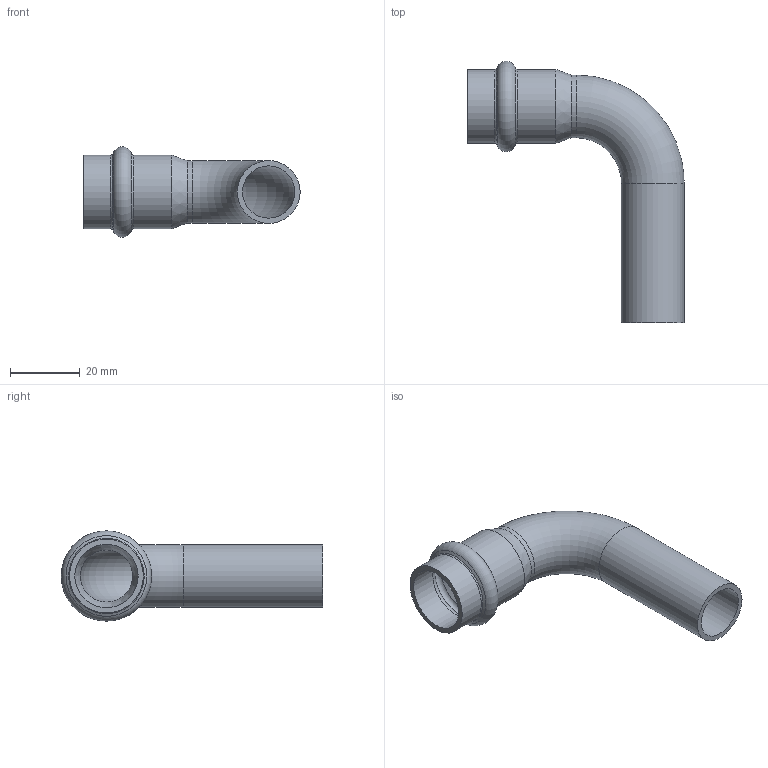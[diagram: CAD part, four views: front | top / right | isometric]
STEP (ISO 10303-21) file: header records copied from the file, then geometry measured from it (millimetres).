
FILE_DESCRIPTION((''),'2;1');
FILE_NAME('G:\Nirosan-Schmiedefeld\Technics\CAD\Bauteile VA\018\69001A18(1).stp','2011-09-05T13:32:58',('herberg'),(''),'Autodesk Inventor 2009','Autodesk Inventor 2009','');
FILE_SCHEMA(('AUTOMOTIVE_DESIGN { 1 0 10303 214 1 1 1 1 }'));
Length unit declared in the file: millimetre
Products named in the file (1): 69001A18(1)
Bounding box: 62 x 74.95 x 25.9 mm (x, y, z)
Volume: 8933.2 mm3; surface area: 12081.2 mm2
Topology: 1 solids, 1 shells, 22 faces, 48 edges, 28 vertices
Faces by surface type: cylinder 8, torus 4, cone 4, bspline 4, plane 2
Full cylindrical faces by diameter (mm): 15 x2, 18 x2, 18.15 x2, 21.15 x2
Entity records: 634 total; most frequent: CARTESIAN_POINT 243, DIRECTION 82, ORIENTED_EDGE 44, EDGE_LOOP 44, AXIS2_PLACEMENT_3D 41, VERTEX_POINT 22, CIRCLE 22, EDGE_CURVE 22
